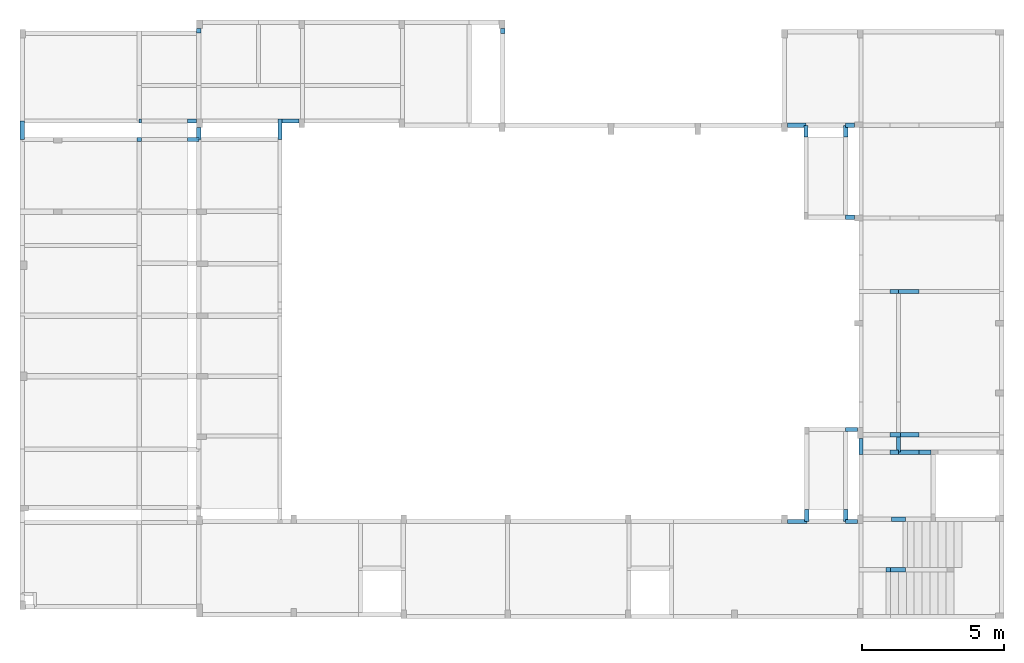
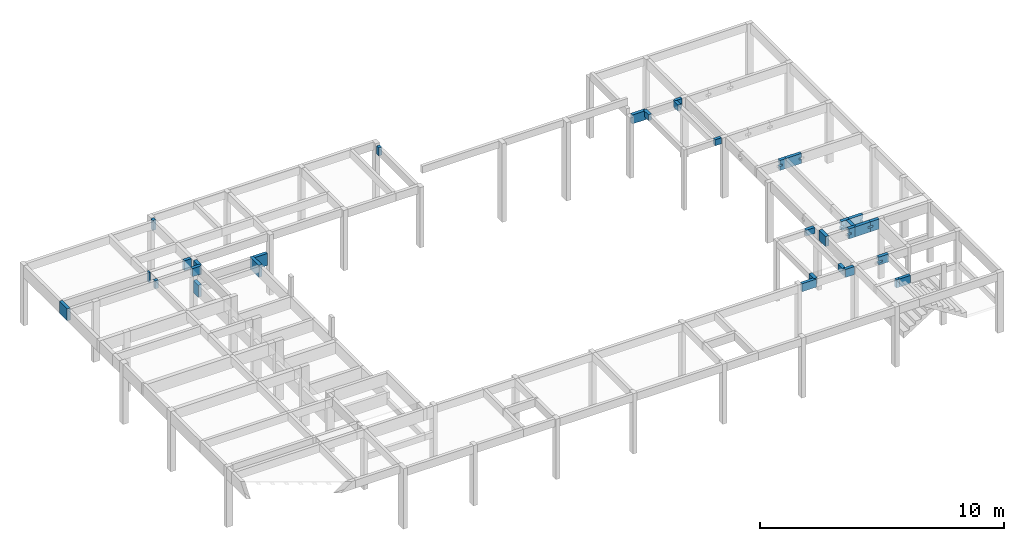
# One storey, part 6 of 21: 33 beams, 8 openings.
"""IFC4 building model written with IfcOpenShell, lengths in centimetres."""

from ifc_helpers import new_model, si_unit, derived_unit, frame, origin_with_axes, origin_2d_with_axis, place, context, project, spatial, rectangle, extrude, material, element, save


model = new_model("IFC4")

# Units and contexts
model_context = context("Model", 3, precision=1e-05, world=origin_with_axes(), identifier="Body")
ifc_project = project(units=[si_unit("LENGTHUNIT", "METRE", prefix="CENTI"), si_unit("VOLUMEUNIT", "CUBIC_METRE"), si_unit("AREAUNIT", "SQUARE_METRE"), si_unit("POWERUNIT", "WATT"), si_unit("LUMINOUSFLUXUNIT", "LUMEN"), si_unit("ELECTRICCURRENTUNIT", "AMPERE"), si_unit("PRESSUREUNIT", "PASCAL", prefix="KILO"), si_unit("MASSUNIT", "GRAM", prefix="KILO"), si_unit("PLANEANGLEUNIT", "RADIAN"), derived_unit("VOLUMETRICFLOWRATEUNIT", [(si_unit("LENGTHUNIT", "METRE"), 3), (si_unit("TIMEUNIT", "SECOND"), -1)])], contexts=[model_context])

# Site, building, storey
site_placement = place(None, origin_with_axes())
site = spatial("IfcSite", under=ifc_project, at=site_placement)
building_placement = place(site_placement, frame((0.0, 0.0, -295.0)))
building = spatial("IfcBuilding", under=site, at=building_placement)
placement_1 = place(building_placement, origin_with_axes())
placement_2 = place(placement_1, frame((0.0, 0.0, 101.0), z_axis=(0.0, 0.0, 1.0), x_axis=(1.0, 0.0, 0.0)))
placement_3 = place(placement_2, frame((0.0, 0.0, 204.0), z_axis=(0.0, 0.0, 1.0), x_axis=(1.0, 0.0, 0.0)))
placement_4 = place(placement_3, frame((0.0, 0.0, 292.0), z_axis=(0.0, 0.0, 1.0), x_axis=(1.0, 0.0, 0.0)))
storey_placement = place(placement_4, frame((0.0, 0.0, 302.0), z_axis=(0.0, 0.0, 1.0), x_axis=(1.0, 0.0, 0.0)))
storey = spatial("IfcBuildingStorey", under=building, at=storey_placement, Name="PAVTO 02", CompositionType="ELEMENT", Elevation=604.0)

# Beams
ifc_material = material(Name="Concreto")
beam_1_placement = place(storey_placement, frame((1157.4, -5427.19, 0.0), z_axis=(0.0, 0.0, 1.0), x_axis=(1.0, 0.0, 0.0)))
element("IfcBeam", 1, at=beam_1_placement, inside=storey, material=ifc_material, Name="V205", context=model_context, shape_type="SolidModel", body=[
    extrude(rectangle(XDim=15.0, YDim=50.0, at=origin_2d_with_axis()), frame((-16.5, 0.0, -25.0), z_axis=(1.0, 0.0, 0.0), x_axis=(0.0, -1.0, 0.0)), (0.0, 0.0, 1.0), 33.0),
])
beam_2_placement = place(storey_placement, frame((975.775, -5427.19, 0.0), z_axis=(0.0, 0.0, 1.0), x_axis=(1.0, 0.0, 0.0)))
element("IfcBeam", 2, at=beam_2_placement, inside=storey, material=ifc_material, Name="V205", context=model_context, shape_type="SolidModel", body=[
    extrude(rectangle(XDim=15.0, YDim=50.0, at=origin_2d_with_axis()), frame((-4.205, 0.0, -25.0), z_axis=(1.0, 0.0, 0.0), x_axis=(0.0, -1.0, 0.0)), (0.0, 0.0, 1.0), 8.41),
])
beam_3_placement = place(storey_placement, frame((1161.15, -5491.66, 0.0), z_axis=(0.0, 0.0, 1.0), x_axis=(1.0, 0.0, 0.0)))
element("IfcBeam", 3, at=beam_3_placement, inside=storey, material=ifc_material, Name="V207", context=model_context, shape_type="SolidModel", body=[
    extrude(rectangle(XDim=15.0, YDim=40.0, at=origin_2d_with_axis()), frame((-20.25, 0.0, -20.0), z_axis=(1.0, 0.0, 0.0), x_axis=(0.0, -1.0, 0.0)), (0.0, 0.0, 1.0), 40.5),
])
beam_4_placement = place(storey_placement, frame((972.025, -5491.66, 0.0), z_axis=(0.0, 0.0, 1.0), x_axis=(1.0, 0.0, 0.0)))
element("IfcBeam", 4, at=beam_4_placement, inside=storey, material=ifc_material, Name="V207", context=model_context, shape_type="SolidModel", body=[
    extrude(rectangle(XDim=15.0, YDim=40.0, at=origin_2d_with_axis()), frame((-7.955, 0.0, -20.0), z_axis=(1.0, 0.0, 0.0), x_axis=(0.0, -1.0, 0.0)), (0.0, 0.0, 1.0), 15.91),
])
beam_5_placement = place(storey_placement, frame((3474.96, -5442.12, 0.0), z_axis=(0.0, 0.0, 1.0), x_axis=(1.0, 0.0, 0.0)))
element("IfcBeam", 5, at=beam_5_placement, inside=storey, material=ifc_material, Name="V210", context=model_context, shape_type="SolidModel", body=[
    extrude(rectangle(XDim=15.0, YDim=45.0, at=origin_2d_with_axis()), frame((-15.75, 0.0, -22.5), z_axis=(1.0, 0.0, 0.0), x_axis=(0.0, -1.0, 0.0)), (0.0, 0.0, 1.0), 31.5),
])
beam_6_placement = place(storey_placement, frame((3286.565, -5442.12, 0.0), z_axis=(0.0, 0.0, 1.0), x_axis=(1.0, 0.0, 0.0)))
element("IfcBeam", 6, at=beam_6_placement, inside=storey, material=ifc_material, Name="V210", context=model_context, shape_type="SolidModel", body=[
    extrude(rectangle(XDim=15.0, YDim=45.0, at=origin_2d_with_axis()), frame((-32.835, 0.0, -22.5), z_axis=(1.0, 0.0, 0.0), x_axis=(0.0, -1.0, 0.0)), (0.0, 0.0, 1.0), 65.67),
])
beam_7_placement = place(storey_placement, frame((3474.98, -5766.05, 0.0), z_axis=(0.0, 0.0, 1.0), x_axis=(1.0, 0.0, 0.0)))
element("IfcBeam", 7, at=beam_7_placement, inside=storey, material=ifc_material, Name="V212", context=model_context, shape_type="SolidModel", body=[
    extrude(rectangle(XDim=15.0, YDim=30.0, at=origin_2d_with_axis()), frame((-15.75, 0.0, -15.0), z_axis=(1.0, 0.0, 0.0), x_axis=(0.0, -1.0, 0.0)), (0.0, 0.0, 1.0), 31.5),
])

# Beam, opening
beam_8_placement = place(storey_placement, frame((3630.4, -6027.05, 0.0), z_axis=(0.0, 0.0, 1.0), x_axis=(1.0, 0.0, 0.0)))
beam_8 = element("IfcBeam", 8, at=beam_8_placement, inside=storey, material=ifc_material, Name="V216", context=model_context, shape_type="SolidModel", body=[
    extrude(rectangle(XDim=15.0, YDim=50.0, at=origin_2d_with_axis()), frame((-15.0, 0.0, -25.0), z_axis=(1.0, 0.0, 0.0), x_axis=(0.0, -1.0, 0.0)), (0.0, 0.0, 1.0), 30.0),
])
opening_1_placement = place(storey_placement, frame((3615.4, -6027.05, -20.0), z_axis=(0.0, 0.0, 1.0), x_axis=(1.0, 0.0, 0.0)))
element("IfcOpeningElement", 9, at=opening_1_placement, cuts=beam_8, material=ifc_material, Name="V216 - Abertura 1", context=model_context, shape_type="SweptSolid", body=[
    extrude(rectangle(XDim=25.0, YDim=10.0, at=origin_2d_with_axis()), frame((0.0, -7.6, -5.0), z_axis=(0.0, 1.0, 0.0), x_axis=(-1.0, 0.0, 0.0)), (0.0, 0.0, 1.0), 15.2),
])

beam_9_placement = place(storey_placement, frame((3681.825, -6027.05, 0.0), z_axis=(0.0, 0.0, 1.0), x_axis=(1.0, 0.0, 0.0)))
beam_9 = element("IfcBeam", 10, at=beam_9_placement, inside=storey, material=ifc_material, Name="V216", context=model_context, shape_type="SolidModel", body=[
    extrude(rectangle(XDim=15.0, YDim=50.0, at=origin_2d_with_axis()), frame((-36.425, 0.0, -25.0), z_axis=(1.0, 0.0, 0.0), x_axis=(0.0, -1.0, 0.0)), (0.0, 0.0, 1.0), 72.85),
])
opening_2_placement = place(storey_placement, frame((3718.25, -6027.05, -20.0), z_axis=(0.0, 0.0, 1.0), x_axis=(1.0, 0.0, 0.0)))
element("IfcOpeningElement", 11, at=opening_2_placement, cuts=beam_9, material=ifc_material, Name="V216 - Abertura 1", context=model_context, shape_type="SweptSolid", body=[
    extrude(rectangle(XDim=25.0, YDim=10.0, at=origin_2d_with_axis()), frame((0.0, -7.6, -5.0), z_axis=(0.0, 1.0, 0.0), x_axis=(-1.0, 0.0, 0.0)), (0.0, 0.0, 1.0), 15.2),
])

# Beam
beam_10_placement = place(storey_placement, frame((3479.98, -6513.05, 0.0), z_axis=(0.0, 0.0, 1.0), x_axis=(1.0, 0.0, 0.0)))
element("IfcBeam", 12, at=beam_10_placement, inside=storey, material=ifc_material, Name="V219", context=model_context, shape_type="SolidModel", body=[
    extrude(rectangle(XDim=15.0, YDim=30.0, at=origin_2d_with_axis()), frame((-20.75, 0.0, -15.0), z_axis=(1.0, 0.0, 0.0), x_axis=(0.0, -1.0, 0.0)), (0.0, 0.0, 1.0), 41.5),
])

# Beam, opening
beam_11_placement = place(storey_placement, frame((3681.825, -6532.05, 0.0), z_axis=(0.0, 0.0, 1.0), x_axis=(1.0, 0.0, 0.0)))
beam_11 = element("IfcBeam", 13, at=beam_11_placement, inside=storey, material=ifc_material, Name="V220", context=model_context, shape_type="SolidModel", body=[
    extrude(rectangle(XDim=15.0, YDim=45.0, at=origin_2d_with_axis()), frame((-36.425, 0.0, -22.5), z_axis=(1.0, 0.0, 0.0), x_axis=(0.0, -1.0, 0.0)), (0.0, 0.0, 1.0), 72.85),
])
opening_3_placement = place(storey_placement, frame((3718.25, -6532.05, -20.0), z_axis=(0.0, 0.0, 1.0), x_axis=(1.0, 0.0, 0.0)))
element("IfcOpeningElement", 14, at=opening_3_placement, cuts=beam_11, material=ifc_material, Name="V220 - Abertura 1", context=model_context, shape_type="SweptSolid", body=[
    extrude(rectangle(XDim=25.0, YDim=10.0, at=origin_2d_with_axis()), frame((0.0, -7.6, -5.0), z_axis=(0.0, 1.0, 0.0), x_axis=(-1.0, 0.0, 0.0)), (0.0, 0.0, 1.0), 15.2),
])

beam_12_placement = place(storey_placement, frame((3634.15, -6532.05, 0.0), z_axis=(0.0, 0.0, 1.0), x_axis=(1.0, 0.0, 0.0)))
beam_12 = element("IfcBeam", 15, at=beam_12_placement, inside=storey, material=ifc_material, Name="V220", context=model_context, shape_type="SolidModel", body=[
    extrude(rectangle(XDim=15.0, YDim=45.0, at=origin_2d_with_axis()), frame((-18.75, 0.0, -22.5), z_axis=(1.0, 0.0, 0.0), x_axis=(0.0, -1.0, 0.0)), (0.0, 0.0, 1.0), 37.5),
])
opening_4_placement = place(storey_placement, frame((3615.4, -6532.05, -20.0), z_axis=(0.0, 0.0, 1.0), x_axis=(1.0, 0.0, 0.0)))
element("IfcOpeningElement", 16, at=opening_4_placement, cuts=beam_12, material=ifc_material, Name="V220 - Abertura 1", context=model_context, shape_type="SweptSolid", body=[
    extrude(rectangle(XDim=25.0, YDim=10.0, at=origin_2d_with_axis()), frame((0.0, -7.6, -5.0), z_axis=(0.0, 1.0, 0.0), x_axis=(-1.0, 0.0, 0.0)), (0.0, 0.0, 1.0), 15.2),
])

beam_13_placement = place(storey_placement, frame((3738.99, -6592.81, 0.0), z_axis=(0.0, 0.0, 1.0), x_axis=(1.0, 0.0, 0.0)))
beam_13 = element("IfcBeam", 17, at=beam_13_placement, inside=storey, material=ifc_material, Name="V223", context=model_context, shape_type="SolidModel", body=[
    extrude(rectangle(XDim=15.0, YDim=50.0, at=origin_2d_with_axis()), frame((-20.74, 0.0, -25.0), z_axis=(1.0, 0.0, 0.0), x_axis=(0.0, -1.0, 0.0)), (0.0, 0.0, 1.0), 41.48),
])
opening_5_placement = place(storey_placement, frame((3718.25, -6592.81, -20.0), z_axis=(0.0, 0.0, 1.0), x_axis=(1.0, 0.0, 0.0)))
element("IfcOpeningElement", 18, at=opening_5_placement, cuts=beam_13, material=ifc_material, Name="V223 - Abertura 1", context=model_context, shape_type="SweptSolid", body=[
    extrude(rectangle(XDim=25.0, YDim=10.0, at=origin_2d_with_axis()), frame((0.0, -7.6, -5.0), z_axis=(0.0, 1.0, 0.0), x_axis=(-1.0, 0.0, 0.0)), (0.0, 0.0, 1.0), 15.2),
])

beam_14_placement = place(storey_placement, frame((3630.4, -6592.81, 0.0), z_axis=(0.0, 0.0, 1.0), x_axis=(1.0, 0.0, 0.0)))
beam_14 = element("IfcBeam", 19, at=beam_14_placement, inside=storey, material=ifc_material, Name="V223", context=model_context, shape_type="SolidModel", body=[
    extrude(rectangle(XDim=15.0, YDim=50.0, at=origin_2d_with_axis()), frame((-15.0, 0.0, -25.0), z_axis=(1.0, 0.0, 0.0), x_axis=(0.0, -1.0, 0.0)), (0.0, 0.0, 1.0), 30.0),
])
opening_6_placement = place(storey_placement, frame((3615.4, -6592.81, -20.0), z_axis=(0.0, 0.0, 1.0), x_axis=(1.0, 0.0, 0.0)))
element("IfcOpeningElement", 20, at=opening_6_placement, cuts=beam_14, material=ifc_material, Name="V223 - Abertura 1", context=model_context, shape_type="SweptSolid", body=[
    extrude(rectangle(XDim=25.0, YDim=10.0, at=origin_2d_with_axis()), frame((0.0, -7.6, -5.0), z_axis=(0.0, 1.0, 0.0), x_axis=(-1.0, 0.0, 0.0)), (0.0, 0.0, 1.0), 15.2),
])

beam_15_placement = place(storey_placement, frame((3681.825, -6592.81, 0.0), z_axis=(0.0, 0.0, 1.0), x_axis=(1.0, 0.0, 0.0)))
beam_15 = element("IfcBeam", 21, at=beam_15_placement, inside=storey, material=ifc_material, Name="V223", context=model_context, shape_type="SolidModel", body=[
    extrude(rectangle(XDim=15.0, YDim=50.0, at=origin_2d_with_axis()), frame((-36.425, 0.0, -25.0), z_axis=(1.0, 0.0, 0.0), x_axis=(0.0, -1.0, 0.0)), (0.0, 0.0, 1.0), 72.85),
])
opening_7_placement = place(storey_placement, frame((3718.25, -6592.81, -20.0), z_axis=(0.0, 0.0, 1.0), x_axis=(1.0, 0.0, 0.0)))
element("IfcOpeningElement", 22, at=opening_7_placement, cuts=beam_15, material=ifc_material, Name="V223 - Abertura 1", context=model_context, shape_type="SweptSolid", body=[
    extrude(rectangle(XDim=25.0, YDim=10.0, at=origin_2d_with_axis()), frame((0.0, -7.6, -5.0), z_axis=(0.0, 1.0, 0.0), x_axis=(-1.0, 0.0, 0.0)), (0.0, 0.0, 1.0), 15.2),
])

# Beams
beam_16_placement = place(storey_placement, frame((3287.98, -6836.7, 0.0), z_axis=(0.0, 0.0, 1.0), x_axis=(1.0, 0.0, 0.0)))
element("IfcBeam", 23, at=beam_16_placement, inside=storey, material=ifc_material, Name="V227", context=model_context, shape_type="SolidModel", body=[
    extrude(rectangle(XDim=15.0, YDim=40.0, at=origin_2d_with_axis()), frame((-34.25, 0.0, -20.0), z_axis=(1.0, 0.0, 0.0), x_axis=(0.0, -1.0, 0.0)), (0.0, 0.0, 1.0), 68.5),
])
beam_17_placement = place(storey_placement, frame((3479.98, -6836.7, 0.0), z_axis=(0.0, 0.0, 1.0), x_axis=(1.0, 0.0, 0.0)))
element("IfcBeam", 24, at=beam_17_placement, inside=storey, material=ifc_material, Name="V227", context=model_context, shape_type="SolidModel", body=[
    extrude(rectangle(XDim=15.0, YDim=40.0, at=origin_2d_with_axis()), frame((-20.75, 0.0, -20.0), z_axis=(1.0, 0.0, 0.0), x_axis=(0.0, -1.0, 0.0)), (0.0, 0.0, 1.0), 41.5),
])

# Beam, opening
beam_18_placement = place(storey_placement, frame((3644.83, -6828.79, 0.0), z_axis=(0.0, 0.0, 1.0), x_axis=(1.0, 0.0, 0.0)))
beam_18 = element("IfcBeam", 25, at=beam_18_placement, inside=storey, material=ifc_material, Name="V228", context=model_context, shape_type="SolidModel", body=[
    extrude(rectangle(XDim=15.0, YDim=40.0, at=origin_2d_with_axis()), frame((-24.43, 0.0, -20.0), z_axis=(1.0, 0.0, 0.0), x_axis=(0.0, -1.0, 0.0)), (0.0, 0.0, 1.0), 48.86),
])
opening_8_placement = place(storey_placement, frame((3620.4, -6828.79, -20.0), z_axis=(0.0, 0.0, 1.0), x_axis=(1.0, 0.0, 0.0)))
element("IfcOpeningElement", 26, at=opening_8_placement, cuts=beam_18, material=ifc_material, Name="V228 - Abertura 1", context=model_context, shape_type="SweptSolid", body=[
    extrude(rectangle(XDim=35.0, YDim=10.0, at=origin_2d_with_axis()), frame((0.0, -7.6, -5.0), z_axis=(0.0, 1.0, 0.0), x_axis=(-1.0, 0.0, 0.0)), (0.0, 0.0, 1.0), 15.2),
])

# Beams
beam_19_placement = place(storey_placement, frame((3642.925, -7006.81, 0.0), z_axis=(0.0, 0.0, 1.0), x_axis=(1.0, 0.0, 0.0)))
element("IfcBeam", 27, at=beam_19_placement, inside=storey, material=ifc_material, Name="V231", context=model_context, shape_type="SolidModel", body=[
    extrude(rectangle(XDim=15.0, YDim=40.0, at=origin_2d_with_axis()), frame((-26.335, 0.0, -20.0), z_axis=(1.0, 0.0, 0.0), x_axis=(0.0, -1.0, 0.0)), (0.0, 0.0, 1.0), 52.67),
])
beam_20_placement = place(storey_placement, frame((559.23, -5459.425, 0.0), z_axis=(0.0, 0.0, 1.0), x_axis=(1.0, 0.0, 0.0)))
element("IfcBeam", 28, at=beam_20_placement, inside=storey, material=ifc_material, Name="V237", context=model_context, shape_type="SolidModel", body=[
    extrude(rectangle(XDim=15.0, YDim=60.0, at=origin_2d_with_axis()), frame((0.0, -32.235, -30.0), z_axis=(0.0, 1.0, 0.0), x_axis=(1.0, 0.0, 0.0)), (0.0, 0.0, 1.0), 64.47),
])
beam_21_placement = place(storey_placement, frame((1181.4, -5470.675, 0.0), z_axis=(0.0, 0.0, 1.0), x_axis=(1.0, 0.0, 0.0)))
element("IfcBeam", 29, at=beam_21_placement, inside=storey, material=ifc_material, Name="V242", context=model_context, shape_type="SolidModel", body=[
    extrude(rectangle(XDim=15.0, YDim=50.0, at=origin_2d_with_axis()), frame((0.0, -20.985, -25.0), z_axis=(0.0, 1.0, 0.0), x_axis=(1.0, 0.0, 0.0)), (0.0, 0.0, 1.0), 41.97),
])
beam_22_placement = place(storey_placement, frame((1181.4, -5109.225, -2.0), z_axis=(0.0, 0.0, 1.0), x_axis=(1.0, 0.0, 0.0)))
element("IfcBeam", 30, at=beam_22_placement, inside=storey, material=ifc_material, Name="V243", context=model_context, shape_type="SolidModel", body=[
    extrude(rectangle(XDim=15.0, YDim=50.0, at=origin_2d_with_axis()), frame((0.0, -8.115, -25.0), z_axis=(0.0, 1.0, 0.0), x_axis=(1.0, 0.0, 0.0)), (0.0, 0.0, 1.0), 16.23),
])
beam_23_placement = place(storey_placement, frame((2251.23, -5109.9, -12.0), z_axis=(0.0, 0.0, 1.0), x_axis=(1.0, 0.0, 0.0)))
element("IfcBeam", 31, at=beam_23_placement, inside=storey, material=ifc_material, Name="V252", context=model_context, shape_type="SolidModel", body=[
    extrude(rectangle(XDim=15.0, YDim=40.0, at=origin_2d_with_axis()), frame((0.0, -8.65, -20.0), z_axis=(0.0, 1.0, 0.0), x_axis=(1.0, 0.0, 0.0)), (0.0, 0.0, 1.0), 17.3),
])
beam_24_placement = place(storey_placement, frame((3322.23, -6815.45, 0.0), z_axis=(0.0, 0.0, 1.0), x_axis=(1.0, 0.0, 0.0)))
element("IfcBeam", 32, at=beam_24_placement, inside=storey, material=ifc_material, Name="V256", context=model_context, shape_type="SolidModel", body=[
    extrude(rectangle(XDim=15.0, YDim=30.0, at=origin_2d_with_axis()), frame((0.0, -21.25, -15.0), z_axis=(0.0, 1.0, 0.0), x_axis=(1.0, 0.0, 0.0)), (0.0, 0.0, 1.0), 42.5),
])
beam_25_placement = place(storey_placement, frame((3319.4, -5462.195, 0.0), z_axis=(0.0, 0.0, 1.0), x_axis=(1.0, 0.0, 0.0)))
element("IfcBeam", 33, at=beam_25_placement, inside=storey, material=ifc_material, Name="V257", context=model_context, shape_type="SolidModel", body=[
    extrude(rectangle(XDim=15.0, YDim=30.0, at=origin_2d_with_axis()), frame((0.0, -20.075, -15.0), z_axis=(0.0, 1.0, 0.0), x_axis=(1.0, 0.0, 0.0)), (0.0, 0.0, 1.0), 40.15),
])
beam_26_placement = place(storey_placement, frame((3459.23, -6815.45, 0.0), z_axis=(0.0, 0.0, 1.0), x_axis=(1.0, 0.0, 0.0)))
element("IfcBeam", 34, at=beam_26_placement, inside=storey, material=ifc_material, Name="V258", context=model_context, shape_type="SolidModel", body=[
    extrude(rectangle(XDim=15.0, YDim=30.0, at=origin_2d_with_axis()), frame((0.0, -21.25, -15.0), z_axis=(0.0, 1.0, 0.0), x_axis=(1.0, 0.0, 0.0)), (0.0, 0.0, 1.0), 42.5),
])
beam_27_placement = place(storey_placement, frame((3459.21, -5462.195, 0.0), z_axis=(0.0, 0.0, 1.0), x_axis=(1.0, 0.0, 0.0)))
element("IfcBeam", 35, at=beam_27_placement, inside=storey, material=ifc_material, Name="V259", context=model_context, shape_type="SolidModel", body=[
    extrude(rectangle(XDim=15.0, YDim=30.0, at=origin_2d_with_axis()), frame((0.0, -20.075, -15.0), z_axis=(0.0, 1.0, 0.0), x_axis=(1.0, 0.0, 0.0)), (0.0, 0.0, 1.0), 40.15),
])
beam_28_placement = place(storey_placement, frame((3513.23, -6572.93, 0.0), z_axis=(0.0, 0.0, 1.0), x_axis=(1.0, 0.0, 0.0)))
element("IfcBeam", 36, at=beam_28_placement, inside=storey, material=ifc_material, Name="V260", context=model_context, shape_type="SolidModel", body=[
    extrude(rectangle(XDim=15.0, YDim=50.0, at=origin_2d_with_axis()), frame((0.0, -27.38, -25.0), z_axis=(0.0, 1.0, 0.0), x_axis=(1.0, 0.0, 0.0)), (0.0, 0.0, 1.0), 54.76),
])
beam_29_placement = place(storey_placement, frame((3609.09, -7006.81, 0.0), z_axis=(0.0, 0.0, 1.0), x_axis=(1.0, 0.0, 0.0)))
element("IfcBeam", 37, at=beam_29_placement, inside=storey, material=ifc_material, Name="V261", context=model_context, shape_type="SolidModel", body=[
    extrude(rectangle(XDim=15.0, YDim=40.0, at=origin_2d_with_axis()), frame((0.0, -7.5, -20.0), z_axis=(0.0, 1.0, 0.0), x_axis=(1.0, 0.0, 0.0)), (0.0, 0.0, 1.0), 15.0),
])
beam_30_placement = place(storey_placement, frame((3645.4, -6566.18, 0.0), z_axis=(0.0, 0.0, 1.0), x_axis=(1.0, 0.0, 0.0)))
element("IfcBeam", 38, at=beam_30_placement, inside=storey, material=ifc_material, Name="V263", context=model_context, shape_type="SolidModel", body=[
    extrude(rectangle(XDim=15.0, YDim=45.0, at=origin_2d_with_axis()), frame((0.0, -26.63, -22.5), z_axis=(0.0, 1.0, 0.0), x_axis=(1.0, 0.0, 0.0)), (0.0, 0.0, 1.0), 53.26),
])
beam_31_placement = place(storey_placement, frame((1504.65, -5427.19, -100.0), z_axis=(0.0, 0.0, 1.0), x_axis=(1.0, 0.0, 0.0)))
element("IfcBeam", 39, at=beam_31_placement, inside=storey, material=ifc_material, Name="V267", context=model_context, shape_type="SolidModel", body=[
    extrude(rectangle(XDim=15.0, YDim=60.0, at=origin_2d_with_axis()), frame((-29.75, 0.0, -30.0), z_axis=(1.0, 0.0, 0.0), x_axis=(0.0, -1.0, 0.0)), (0.0, 0.0, 1.0), 59.5),
])
beam_32_placement = place(storey_placement, frame((1181.4, -5470.675, -100.0), z_axis=(0.0, 0.0, 1.0), x_axis=(1.0, 0.0, 0.0)))
element("IfcBeam", 40, at=beam_32_placement, inside=storey, material=ifc_material, Name="V275", context=model_context, shape_type="SolidModel", body=[
    extrude(rectangle(XDim=15.0, YDim=60.0, at=origin_2d_with_axis()), frame((0.0, -20.985, -30.0), z_axis=(0.0, 1.0, 0.0), x_axis=(1.0, 0.0, 0.0)), (0.0, 0.0, 1.0), 41.97),
])
beam_33_placement = place(storey_placement, frame((1467.4, -5455.675, -100.0), z_axis=(0.0, 0.0, 1.0), x_axis=(1.0, 0.0, 0.0)))
element("IfcBeam", 41, at=beam_33_placement, inside=storey, material=ifc_material, Name="V277", context=model_context, shape_type="SolidModel", body=[
    extrude(rectangle(XDim=15.0, YDim=60.0, at=origin_2d_with_axis()), frame((0.0, -35.985, -30.0), z_axis=(0.0, 1.0, 0.0), x_axis=(1.0, 0.0, 0.0)), (0.0, 0.0, 1.0), 71.97),
])

save(model, "model.ifc")
